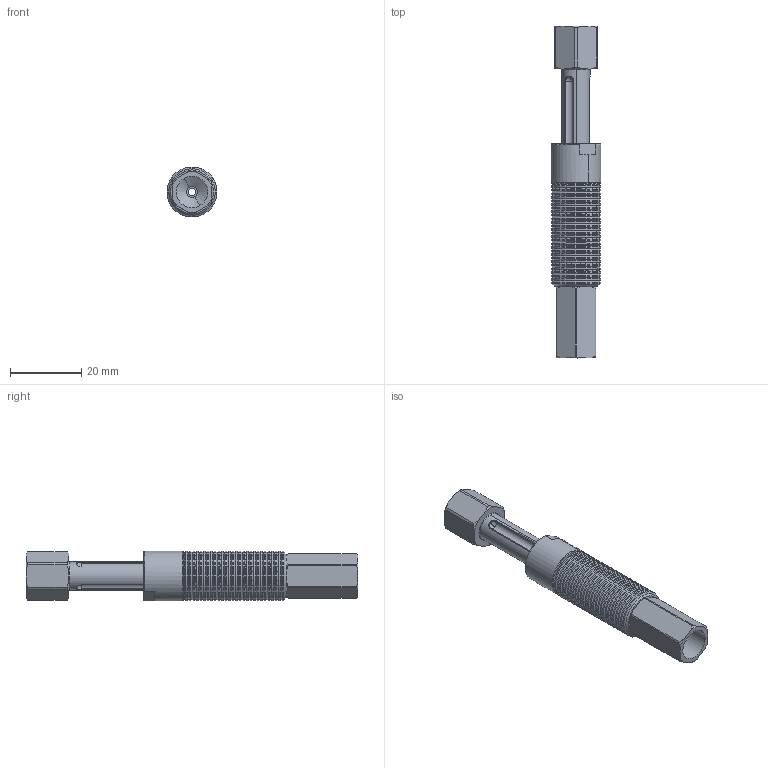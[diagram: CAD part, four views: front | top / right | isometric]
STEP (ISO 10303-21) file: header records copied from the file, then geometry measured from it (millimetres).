
FILE_DESCRIPTION (( 'STEP AP214' ), '1' );
FILE_NAME ('VFNT1421-G18.STEP', '2019-11-15T05:49:41', ( '微软用户' ), ( '微软中国' ), 'SwSTEP 2.0', 'SolidWorks 2016', '' );
FILE_SCHEMA (( 'AUTOMOTIVE_DESIGN' ));
Length unit declared in the file: millimetre
Products named in the file (1): VFNT1421-G18
Bounding box: 14 x 93 x 14 mm (x, y, z)
Volume: 8368.1 mm3; surface area: 9216.1 mm2
Topology: 4 solids, 4 shells, 457 faces, 1067 edges, 628 vertices
Faces by surface type: cone 245, cylinder 153, plane 39, bspline 20
Entity records: 21601 total; most frequent: CARTESIAN_POINT 5935, DIRECTION 2391, ORIENTED_EDGE 2134, EDGE_CURVE 1067, AXIS2_PLACEMENT_3D 976, VERTEX_POINT 628, CIRCLE 538, EDGE_LOOP 481
